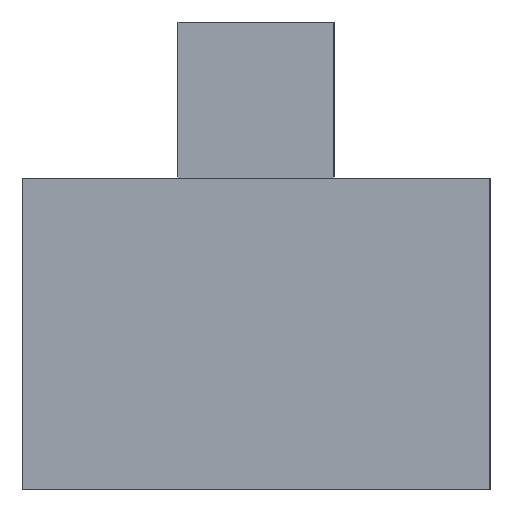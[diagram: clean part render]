
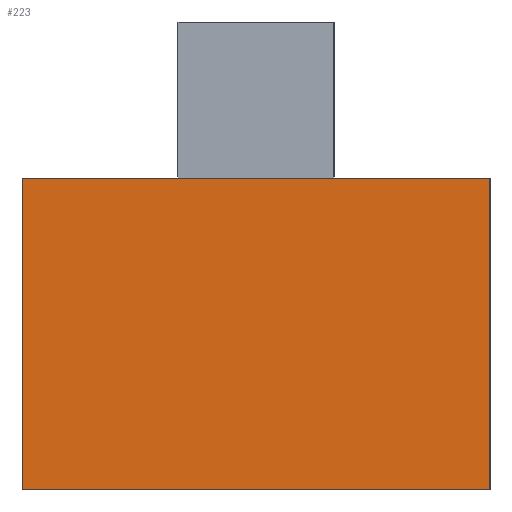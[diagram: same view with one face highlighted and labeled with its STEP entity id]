
A CAD part, left-side view. The second image highlights one B-rep face of the part: STEP entity #223.
In plain terms, the highlighted planar face has unit normal (-1, 0, 0).
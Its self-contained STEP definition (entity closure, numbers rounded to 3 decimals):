
#32 = PLANE('',#33);
#33 = AXIS2_PLACEMENT_3D('',#34,#35,#36);
#34 = CARTESIAN_POINT('',(0.,15.,0.));
#35 = DIRECTION('',(0.,-1.,0.));
#36 = DIRECTION('',(-1.,0.,0.));
#57 = VERTEX_POINT('',#58);
#58 = CARTESIAN_POINT('',(-37.587,15.,10.));
#72 = PLANE('',#73);
#73 = AXIS2_PLACEMENT_3D('',#74,#75,#76);
#74 = CARTESIAN_POINT('',(-16.678,7.5,10.));
#75 = DIRECTION('',(0.,0.,1.));
#76 = DIRECTION('',(1.,0.,0.));
#84 = EDGE_CURVE('',#85,#57,#87,.T.);
#85 = VERTEX_POINT('',#86);
#86 = CARTESIAN_POINT('',(-37.587,15.,0.));
#87 = SURFACE_CURVE('',#88,(#92,#99),.PCURVE_S1.);
#88 = LINE('',#89,#90);
#89 = CARTESIAN_POINT('',(-37.587,15.,0.));
#90 = VECTOR('',#91,1.);
#91 = DIRECTION('',(0.,0.,1.));
#92 = PCURVE('',#32,#93);
#93 = DEFINITIONAL_REPRESENTATION('',(#94),#98);
#94 = LINE('',#95,#96);
#95 = CARTESIAN_POINT('',(37.587,0.));
#96 = VECTOR('',#97,1.);
#97 = DIRECTION('',(0.,-1.));
#98 = ( GEOMETRIC_REPRESENTATION_CONTEXT(2) 
PARAMETRIC_REPRESENTATION_CONTEXT() REPRESENTATION_CONTEXT('2D SPACE',''
  ) );
#99 = PCURVE('',#100,#105);
#100 = PLANE('',#101);
#101 = AXIS2_PLACEMENT_3D('',#102,#103,#104);
#102 = CARTESIAN_POINT('',(-37.587,15.,0.));
#103 = DIRECTION('',(1.,0.,0.));
#104 = DIRECTION('',(0.,-1.,0.));
#105 = DEFINITIONAL_REPRESENTATION('',(#106),#110);
#106 = LINE('',#107,#108);
#107 = CARTESIAN_POINT('',(0.,0.));
#108 = VECTOR('',#109,1.);
#109 = DIRECTION('',(0.,-1.));
#110 = ( GEOMETRIC_REPRESENTATION_CONTEXT(2) 
PARAMETRIC_REPRESENTATION_CONTEXT() REPRESENTATION_CONTEXT('2D SPACE',''
  ) );
#126 = PLANE('',#127);
#127 = AXIS2_PLACEMENT_3D('',#128,#129,#130);
#128 = CARTESIAN_POINT('',(-16.678,7.5,0.));
#129 = DIRECTION('',(0.,0.,1.));
#130 = DIRECTION('',(1.,0.,0.));
#223 = ADVANCED_FACE('',(#224),#100,.F.);
#224 = FACE_BOUND('',#225,.F.);
#225 = EDGE_LOOP('',(#226,#227,#250,#278));
#226 = ORIENTED_EDGE('',*,*,#84,.T.);
#227 = ORIENTED_EDGE('',*,*,#228,.T.);
#228 = EDGE_CURVE('',#57,#229,#231,.T.);
#229 = VERTEX_POINT('',#230);
#230 = CARTESIAN_POINT('',(-37.587,0.,10.));
#231 = SURFACE_CURVE('',#232,(#236,#243),.PCURVE_S1.);
#232 = LINE('',#233,#234);
#233 = CARTESIAN_POINT('',(-37.587,15.,10.));
#234 = VECTOR('',#235,1.);
#235 = DIRECTION('',(0.,-1.,0.));
#236 = PCURVE('',#100,#237);
#237 = DEFINITIONAL_REPRESENTATION('',(#238),#242);
#238 = LINE('',#239,#240);
#239 = CARTESIAN_POINT('',(0.,-10.));
#240 = VECTOR('',#241,1.);
#241 = DIRECTION('',(1.,0.));
#242 = ( GEOMETRIC_REPRESENTATION_CONTEXT(2) 
PARAMETRIC_REPRESENTATION_CONTEXT() REPRESENTATION_CONTEXT('2D SPACE',''
  ) );
#243 = PCURVE('',#72,#244);
#244 = DEFINITIONAL_REPRESENTATION('',(#245),#249);
#245 = LINE('',#246,#247);
#246 = CARTESIAN_POINT('',(-20.909,7.5));
#247 = VECTOR('',#248,1.);
#248 = DIRECTION('',(0.,-1.));
#249 = ( GEOMETRIC_REPRESENTATION_CONTEXT(2) 
PARAMETRIC_REPRESENTATION_CONTEXT() REPRESENTATION_CONTEXT('2D SPACE',''
  ) );
#250 = ORIENTED_EDGE('',*,*,#251,.F.);
#251 = EDGE_CURVE('',#252,#229,#254,.T.);
#252 = VERTEX_POINT('',#253);
#253 = CARTESIAN_POINT('',(-37.587,0.,0.));
#254 = SURFACE_CURVE('',#255,(#259,#266),.PCURVE_S1.);
#255 = LINE('',#256,#257);
#256 = CARTESIAN_POINT('',(-37.587,0.,0.));
#257 = VECTOR('',#258,1.);
#258 = DIRECTION('',(0.,0.,1.));
#259 = PCURVE('',#100,#260);
#260 = DEFINITIONAL_REPRESENTATION('',(#261),#265);
#261 = LINE('',#262,#263);
#262 = CARTESIAN_POINT('',(15.,0.));
#263 = VECTOR('',#264,1.);
#264 = DIRECTION('',(0.,-1.));
#265 = ( GEOMETRIC_REPRESENTATION_CONTEXT(2) 
PARAMETRIC_REPRESENTATION_CONTEXT() REPRESENTATION_CONTEXT('2D SPACE',''
  ) );
#266 = PCURVE('',#267,#272);
#267 = PLANE('',#268);
#268 = AXIS2_PLACEMENT_3D('',#269,#270,#271);
#269 = CARTESIAN_POINT('',(-37.587,0.,0.));
#270 = DIRECTION('',(0.,1.,0.));
#271 = DIRECTION('',(1.,0.,0.));
#272 = DEFINITIONAL_REPRESENTATION('',(#273),#277);
#273 = LINE('',#274,#275);
#274 = CARTESIAN_POINT('',(0.,0.));
#275 = VECTOR('',#276,1.);
#276 = DIRECTION('',(0.,-1.));
#277 = ( GEOMETRIC_REPRESENTATION_CONTEXT(2) 
PARAMETRIC_REPRESENTATION_CONTEXT() REPRESENTATION_CONTEXT('2D SPACE',''
  ) );
#278 = ORIENTED_EDGE('',*,*,#279,.F.);
#279 = EDGE_CURVE('',#85,#252,#280,.T.);
#280 = SURFACE_CURVE('',#281,(#285,#292),.PCURVE_S1.);
#281 = LINE('',#282,#283);
#282 = CARTESIAN_POINT('',(-37.587,15.,0.));
#283 = VECTOR('',#284,1.);
#284 = DIRECTION('',(0.,-1.,0.));
#285 = PCURVE('',#100,#286);
#286 = DEFINITIONAL_REPRESENTATION('',(#287),#291);
#287 = LINE('',#288,#289);
#288 = CARTESIAN_POINT('',(0.,0.));
#289 = VECTOR('',#290,1.);
#290 = DIRECTION('',(1.,0.));
#291 = ( GEOMETRIC_REPRESENTATION_CONTEXT(2) 
PARAMETRIC_REPRESENTATION_CONTEXT() REPRESENTATION_CONTEXT('2D SPACE',''
  ) );
#292 = PCURVE('',#126,#293);
#293 = DEFINITIONAL_REPRESENTATION('',(#294),#298);
#294 = LINE('',#295,#296);
#295 = CARTESIAN_POINT('',(-20.909,7.5));
#296 = VECTOR('',#297,1.);
#297 = DIRECTION('',(0.,-1.));
#298 = ( GEOMETRIC_REPRESENTATION_CONTEXT(2) 
PARAMETRIC_REPRESENTATION_CONTEXT() REPRESENTATION_CONTEXT('2D SPACE',''
  ) );
